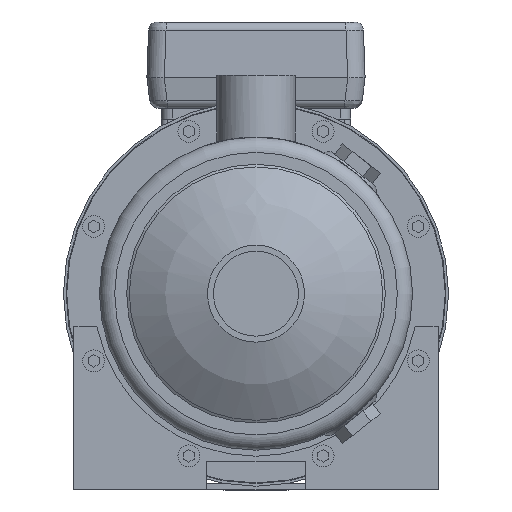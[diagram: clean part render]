
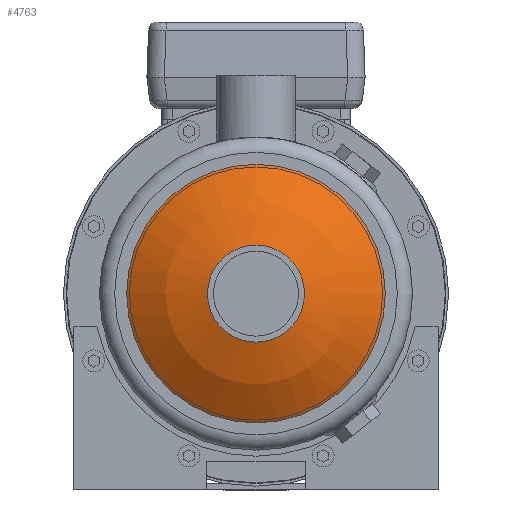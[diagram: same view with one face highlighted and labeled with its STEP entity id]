
A CAD part, left-side view. The second image highlights one B-rep face of the part: STEP entity #4763.
In plain terms, the highlighted spherical face has radius 100 mm.
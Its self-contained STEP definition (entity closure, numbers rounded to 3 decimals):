
#83=SPHERICAL_SURFACE('',#6416,100.);
#1088=ORIENTED_EDGE('',*,*,#2403,.T.);
#1089=ORIENTED_EDGE('',*,*,#2402,.F.);
#2402=EDGE_CURVE('',#3064,#3064,#3517,.T.);
#2403=EDGE_CURVE('',#3065,#3065,#3518,.T.);
#3064=VERTEX_POINT('',#8574);
#3065=VERTEX_POINT('',#8577);
#3517=CIRCLE('',#6415,22.25);
#3518=CIRCLE('',#6417,59.25);
#3735=EDGE_LOOP('',(#1088));
#3736=EDGE_LOOP('',(#1089));
#4167=FACE_BOUND('',#3735,.T.);
#4168=FACE_BOUND('',#3736,.T.);
#4763=ADVANCED_FACE('',(#4167,#4168),#83,.T.);
#6415=AXIS2_PLACEMENT_3D('',#8573,#7008,#7009);
#6416=AXIS2_PLACEMENT_3D('',#8575,#7010,#7011);
#6417=AXIS2_PLACEMENT_3D('',#8576,#7012,#7013);
#7008=DIRECTION('',(-1.,0.,0.));
#7009=DIRECTION('',(0.,0.,1.));
#7010=DIRECTION('',(-1.,0.,0.));
#7011=DIRECTION('',(0.,0.,1.));
#7012=DIRECTION('',(-1.,0.,0.));
#7013=DIRECTION('',(0.,0.,1.));
#8573=CARTESIAN_POINT('',(-115.293,0.,0.));
#8574=CARTESIAN_POINT('',(-115.293,0.,22.25));
#8575=CARTESIAN_POINT('',(-17.8,0.,0.));
#8576=CARTESIAN_POINT('',(-98.357,0.,0.));
#8577=CARTESIAN_POINT('',(-98.357,0.,59.25));
